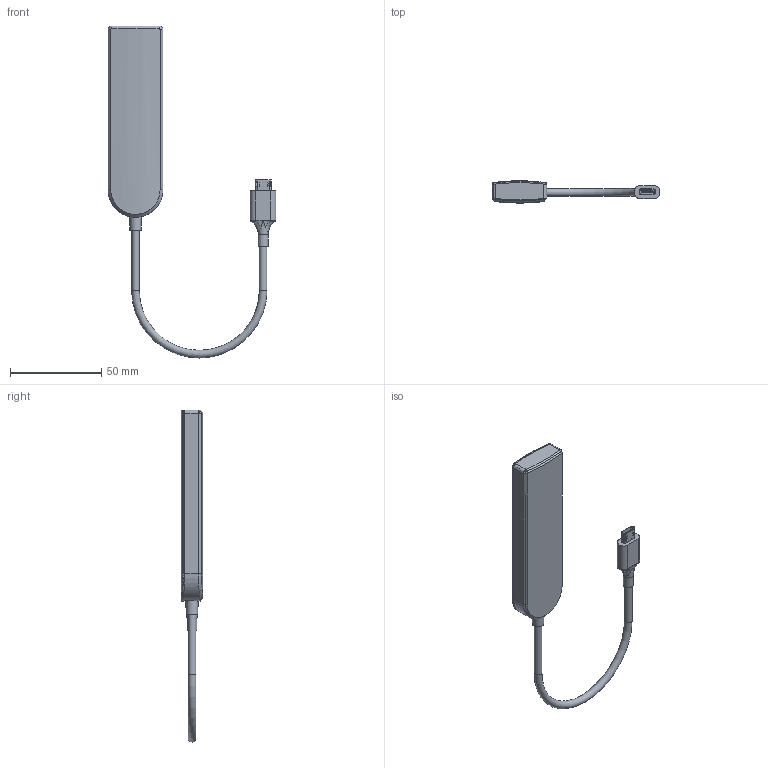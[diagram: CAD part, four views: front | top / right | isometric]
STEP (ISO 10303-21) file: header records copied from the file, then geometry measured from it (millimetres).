
FILE_DESCRIPTION(/* description */ (''),/* implementation_level */ '2;1');
FILE_NAME(/* name */ '/Users/leo/Desktop/Desktop - Leonardo’s MacBook Air/Coolgear May/GM-U34AC-PTS/GM-U34AC-PTS Model3D LPV1.step',/* time_stamp */ '2021-06-30T13:42:40-04:00',/* author */ (''),/* organization */ (''),/* preprocessor_version */ 'ST-DEVELOPER v18.1',/* originating_system */ 'Autodesk Translation Framework v10.9.0.1377',/* authorisation */ '');
FILE_SCHEMA (('AUTOMOTIVE_DESIGN { 1 0 10303 214 3 1 1 }'));
Length unit declared in the file: millimetre
Products named in the file (1): FusionComponent
Bounding box: 92.01 x 12 x 182 mm (x, y, z)
Volume: 15083.7 mm3; surface area: 29628.9 mm2
Topology: 11 solids, 65 shells, 5762 faces, 16895 edges, 10961 vertices
Faces by surface type: plane 3316, cylinder 2386, bspline 44, torus 10, sphere 4, cone 2
Full cylindrical faces by diameter (mm): 4.2 x3, 5.4 x1, 6.2 x1
Entity records: 193775 total; most frequent: CARTESIAN_POINT 35889, ORIENTED_EDGE 33790, DIRECTION 33095, EDGE_CURVE 16895, LINE 11929, VECTOR 11929, VERTEX_POINT 10961, AXIS2_PLACEMENT_3D 10583
